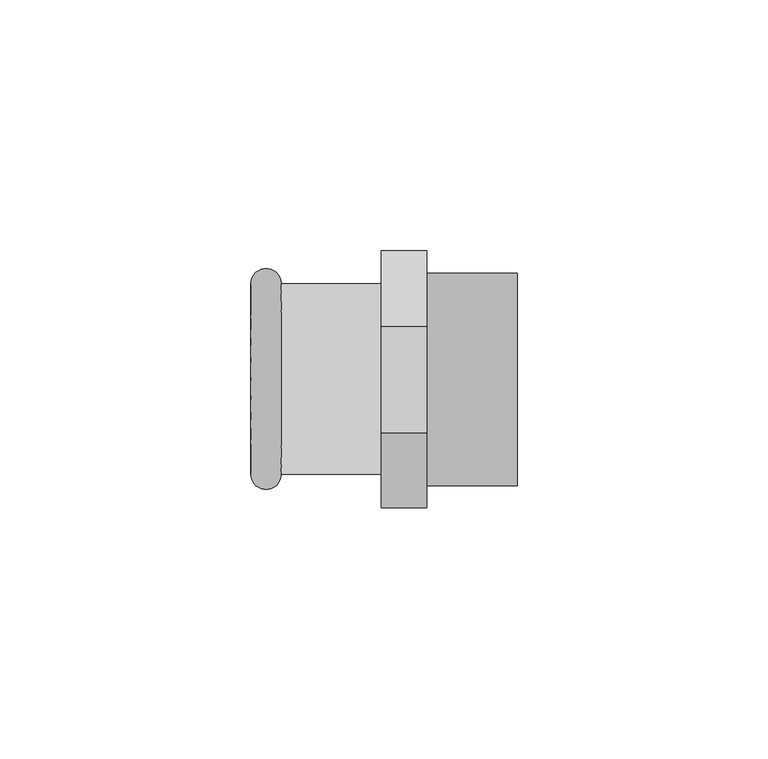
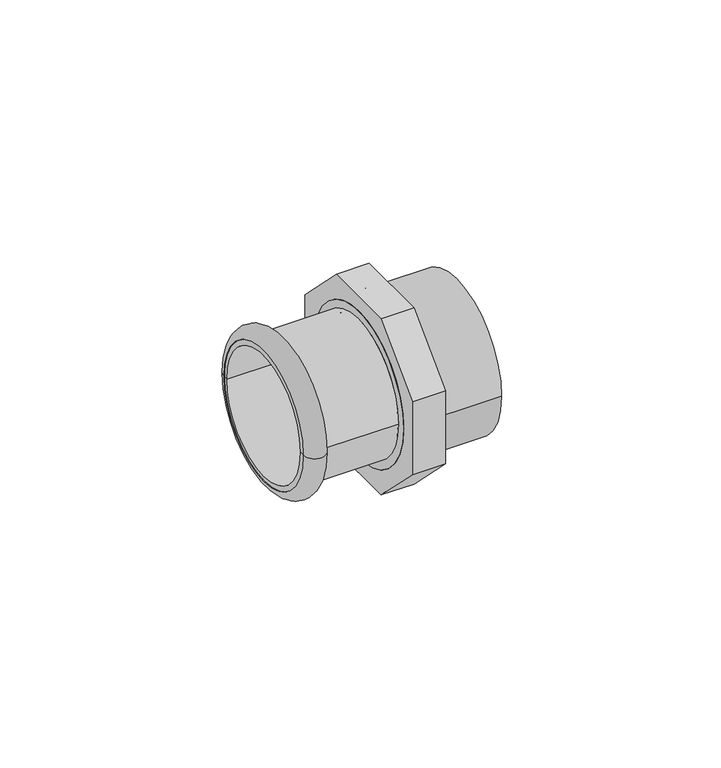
"""IFC4 building model written with IfcOpenShell, lengths in millimetres: pipe fitting geometry."""

from ifc_helpers import new_model, si_unit, point, frame, origin, origin_2d, place, context, project, spatial, polyline, circle_curve, ellipse_curve, trimmed, segment, composite_curve, outline, extrude, source, transform, mapped, element, save
from ifc_brep_helpers import plane_surface, cylinder_surface, revolved_surface, advanced_brep


def pipe_fitting_d16b05df(model_context):
    return source(origin(), model_context, "Body", "SolidModel", [
        advanced_brep(
        [(-26.0, 19.1023199, 0.0), (-26.0, -18.8976801, 0.0), (-19.9987073, -18.8976801, 0.0), (-19.9987073, 19.1023199, 0.0)],
        [
            (0, 1, circle_curve(frame((-26.0, 0.1023199, 0.0), z_axis=(-1.0, 0.0, 0.0), x_axis=(0.0, -1.0000000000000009, 0.0)), 19.0)),
            (1, 2),
            (2, 3, circle_curve(frame((-19.9987073, 0.1023199, 0.0), z_axis=(1.0, 0.0, 0.0), x_axis=(0.0, -1.0000000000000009, 0.0)), 19.0)),
            (3, 0),
            (1, 0, circle_curve(frame((-26.0, 0.1023199, 0.0), z_axis=(-1.0, 0.0, 0.0), x_axis=(0.0, -1.0000000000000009, 0.0)), 19.0)),
            (3, 2, circle_curve(frame((-19.9987073, 0.1023199, 0.0), z_axis=(1.0, 0.0, 0.0), x_axis=(0.0, -1.0000000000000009, 0.0)), 19.0)),
            (2, 1, circle_curve(frame((-22.9993536, -18.8976801, 0.0), z_axis=(0.0, 0.0, -1.0000000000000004), x_axis=(-1.0000000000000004, 0.0, 0.0)), 3.0006464)),
            (0, 3, circle_curve(frame((-22.9993536, 19.1023199, 0.0), z_axis=(0.0, 0.0, -1.0000000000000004), x_axis=(-1.0000000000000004, 0.0, 0.0)), 3.0006464)),
        ],
        [
            revolved_surface(polyline([(-19.998707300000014, -18.897680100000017, 0.0), (-26.00000000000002, -18.897680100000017, 0.0)]), (0.0, 0.1023199, 0.0), (1.0000000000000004, 0.0, 0.0)),
            revolved_surface(trimmed(ellipse_curve(frame((-22.9993536, -18.8976801, 0.0), z_axis=(0.0, 0.0, 1.0000000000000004), x_axis=(-1.0000000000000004, 0.0, 0.0)), 3.0006464, 3.0006464), [point((-26.0, -18.8976801, 0.0))], [point((-19.9987073, -18.8976801, 0.0))], True, "CARTESIAN"), (0.0, 0.1023199, 0.0), (1.0000000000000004, 0.0, 0.0)),
        ],
        [
            (0, [[1, 2, 3, 4]]),
            (0, [[5, -4, 6, -2]]),
            (1, [[-3, 7, -1, 8]]),
            (1, [[-6, -8, -5, -7]]),
        ],
    ),
        advanced_brep(
        [(-26.0, 17.6023199, 0.0), (-26.0, -17.3976801, 0.0), (1.0, -17.3976801, 0.0), (1.0, 17.6023199, 0.0), (-26.0, 19.1023199, 0.0), (-26.0, -18.8976801, 0.0), (0.0, 19.1023199, 0.0), (0.0, -18.8976801, 0.0)],
        [
            (0, 1, circle_curve(frame((-26.0, 0.1023199, 0.0), z_axis=(-1.0, 0.0, 0.0), x_axis=(0.0, -1.0000000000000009, 0.0)), 17.5)),
            (1, 2),
            (2, 3, circle_curve(frame((1.0, 0.1023199, 0.0), z_axis=(1.0, 0.0, 0.0), x_axis=(0.0, -1.0000000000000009, 0.0)), 17.5)),
            (3, 0),
            (1, 0, circle_curve(frame((-26.0, 0.1023199, 0.0), z_axis=(-1.0, 0.0, 0.0), x_axis=(0.0, -1.0000000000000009, 0.0)), 17.5)),
            (3, 2, circle_curve(frame((1.0, 0.1023199, 0.0), z_axis=(1.0, 0.0, 0.0), x_axis=(0.0, -1.0000000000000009, 0.0)), 17.5)),
            (4, 5, circle_curve(frame((-26.0, 0.1023199, 0.0), z_axis=(-1.0, 0.0, 0.0), x_axis=(0.0, -1.0000000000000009, 0.0)), 19.0)),
            (5, 1),
            (0, 4),
            (5, 4, circle_curve(frame((-26.0, 0.1023199, 0.0), z_axis=(-1.0, 0.0, 0.0), x_axis=(0.0, -1.0000000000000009, 0.0)), 19.0)),
            (6, 7, circle_curve(frame((0.0, 0.1023199, 0.0), z_axis=(-1.0, 0.0, 0.0), x_axis=(0.0, -1.0000000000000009, 0.0)), 19.0)),
            (7, 5),
            (4, 6),
            (7, 6, circle_curve(frame((0.0, 0.1023199, 0.0), z_axis=(-1.0, 0.0, 0.0), x_axis=(0.0, -1.0000000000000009, 0.0)), 19.0)),
            (2, 7),
            (6, 3),
        ],
        [
            revolved_surface(polyline([(1.0000000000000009, -17.397680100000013, 0.0), (-26.00000000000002, -17.397680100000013, 0.0)]), (0.0, 0.1023199, 0.0), (1.0000000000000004, 0.0, 0.0)),
            plane_surface(frame((-26.0, 0.1023199, 0.0), z_axis=(-1.0, 0.0, 0.0), x_axis=(0.0, -1.0, 0.0))),
            cylinder_surface(frame((0.0, 0.1023199, 0.0), z_axis=(1.0000000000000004, 0.0, 0.0), x_axis=(0.0, -1.0000000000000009, 0.0)), 19.0),
            revolved_surface(polyline([(0.0, -18.8976801, 0.0), (1.0, -17.3976801, 0.0)]), (0.0, 0.1023199, 0.0), (1.0000000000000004, 0.0, 0.0)),
        ],
        [
            (0, [[1, 2, 3, 4]]),
            (0, [[5, -4, 6, -2]]),
            (1, [[7, 8, -1, 9]]),
            (1, [[10, -9, -5, -8]]),
            (2, [[11, 12, -7, 13]]),
            (2, [[14, -13, -10, -12]]),
            (3, [[-3, 15, -11, 16]]),
            (3, [[-6, -16, -14, -15]]),
        ],
    ),
        extrude(outline(composite_curve([segment(trimmed(circle_curve(origin_2d(), 21.2), [point((-21.2, 0.0))], [point((21.2, 0.0))], False, "CARTESIAN"), True, "CONTINUOUS"), segment(trimmed(circle_curve(origin_2d(), 21.2), [point((21.2, 0.0))], [point((-21.2, 0.0))], False, "CARTESIAN"), True, "CONTINUOUS")], self_intersect=False)), frame((0.0, 0.0, 0.0), z_axis=(1.0, 0.0, 0.0), x_axis=(0.0, 1.0, 0.0)), (0.0, 0.0, 1.0), 27.0),
        extrude(outline(polyline([(25.5906638, 10.6), (25.5906638, -10.6), (10.6, -25.5906638), (-10.6, -25.5906638), (-25.5906638, -10.6), (-25.5906638, 10.6), (-10.6, 25.5906638), (10.6, 25.5906638), (25.5906638, 10.6)]), holes=[composite_curve([segment(trimmed(circle_curve(origin_2d(), 21.2), [point((-21.2, 0.0))], [point((21.2, 0.0))], True, "CARTESIAN"), True, "CONTINUOUS"), segment(trimmed(circle_curve(origin_2d(), 21.2), [point((21.2, 0.0))], [point((-21.2, 0.0))], True, "CARTESIAN"), True, "CONTINUOUS")], self_intersect=False)]), frame((0.0, 0.0, 0.0), z_axis=(1.0, 0.0, 0.0), x_axis=(0.0, 1.0, 0.0)), (0.0, 0.0, 1.0), 9.0),
    ])


if __name__ == "__main__":
    model = new_model("IFC4")
    model_context = context("Model", 3, world=origin())
    ifc_project = project(units=[si_unit("LENGTHUNIT", "METRE", prefix="MILLI")], contexts=[model_context])
    site = spatial("IfcSite", under=ifc_project)
    building = spatial("IfcBuilding", under=site)
    placement = place(None, origin())
    pipe_fitting_shape = pipe_fitting_d16b05df(model_context)
    element("IfcPipeFitting", 1, ObjectType="NLRS_50_PIF_UN_Geberit Mapress Therm overgang met buitendraad_PRO_3208039 : DN12-100-R3\" / d15-108-R3\" - OD", at=placement, inside=building, context=model_context, shape_type="MappedRepresentation", body=[
        mapped(pipe_fitting_shape, transform((0.0, 0.0, 0.0), x_axis=(1.0, 0.0, 0.0), y_axis=(0.0, 1.0, 0.0), z_axis=(0.0, 0.0, 1.0))),
    ])
    save(model, "model.ifc")
